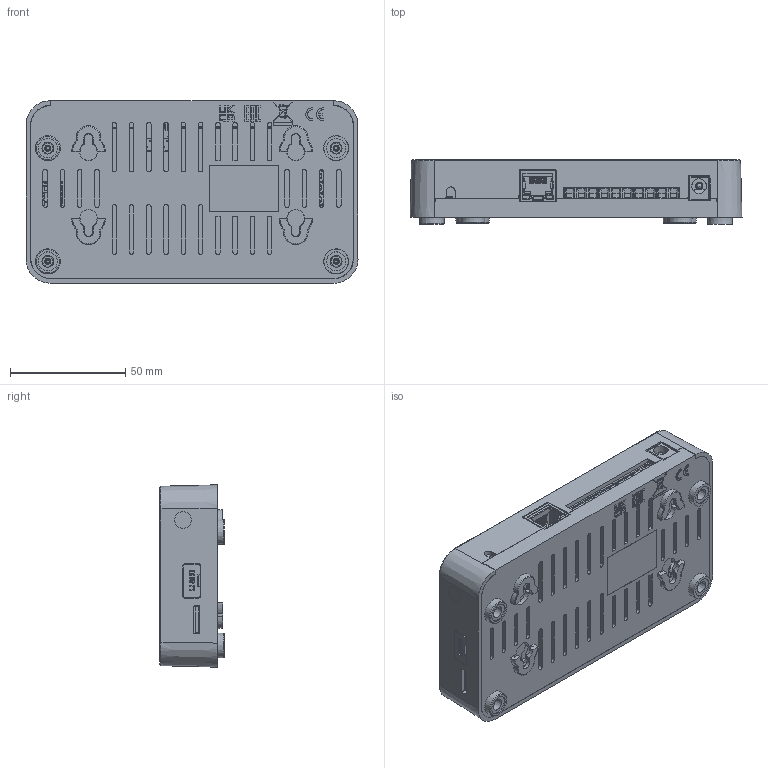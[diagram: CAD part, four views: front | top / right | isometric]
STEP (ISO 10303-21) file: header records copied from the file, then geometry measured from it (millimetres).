
FILE_DESCRIPTION(/* description */ (''),/* implementation_level */ '2;1');
FILE_NAME(/* name */ 'EH-01 Lite.step',/* time_stamp */ '2025-09-08T06:20:37+02:00',/* author */ (''),/* organization */ (''),/* preprocessor_version */ 'ST-DEVELOPER v20.1',/* originating_system */ 'Autodesk Translation Framework v14.10.0.0',/* authorisation */ '');
FILE_SCHEMA (('AUTOMOTIVE_DESIGN { 1 0 10303 214 3 1 1 }'));
Products named in the file (42): OP-1029_Centrala light_2024-02; OP-1029_A; OP-1029_B_poprawki_2024-04; Pleksa; USB_zatyczka od Gracka; OP-1029-B_Surma; ST-2658_2_3_A; Packages; 69410X301002; 6941xx301002; 694106301002_PinContact; 6941xx301002_Back; 6941xx301002_PinContact2; 6941xx301002_PinLame; 6941xx301002_PinBis; LPJ0012GDNL; 615008185221_Housing; 615008185221_Housing2; pin1; pin2; pin3; pin5; pin4; pin6; pin7; pin8; 615008185221_Shielding; pin_led; 615008185221_GreenLed; 615008185221_YellowLed; MEM2051-00-195-A_WITH_CARD; MEM2051-00-195-00-A_PART4; MEM2051-00-195-00-A_PART3; MEM2051-00-195-00-A_PART2; MEM2051-00-195-00-A_PART1; MicroSD v1; USB-A1D122F-0B4N; 61400416021_Insulator; 61400416021_Contact Plating; 61400416021_Shielding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
Assembly tree (49 placements, depth 5):
  OP-1029_Centrala light_2024-02
    OP-1029_A
    OP-1029_B_poprawki_2024-04
    Pleksa
    USB_zatyczka od Gracka
    OP-1029-B_Surma
    ST-2658_2_3_A
      Packages
        69410X301002
          6941xx301002
          694106301002_PinContact
          6941xx301002_Back
          6941xx301002_PinContact2
          6941xx301002_PinLame
          6941xx301002_PinBis
        LPJ0012GDNL
          615008185221_Housing
          615008185221_Housing2
          pin1
          pin2
          pin3
          pin5
          pin4
          pin6
          pin7
          pin8
          615008185221_Shielding
          pin_led  x4
          615008185221_GreenLed
          615008185221_YellowLed
        MEM2051-00-195-A_WITH_CARD
          MEM2051-00-195-00-A_PART4
          MEM2051-00-195-00-A_PART3
          MEM2051-00-195-00-A_PART2
          MEM2051-00-195-00-A_PART1
          MicroSD v1
        USB-A1D122F-0B4N
          61400416021_Insulator
          61400416021_Contact Plating  x4
          61400416021_Shielding
        ULO-TB51-127/5.0-02P-4100A_STANDARD  x2
        ULO-TB51-127/5.0-03P-4100A_STNADARD  x2
Bounding box: 144.16 x 27.9 x 79.2 mm (x, y, z)
Volume: 133663.4 mm3; surface area: 153376.6 mm2
Topology: 41 solids, 1650 shells, 7956 faces, 26554 edges, 20193 vertices
Faces by surface type: plane 4758, cylinder 1440, bspline 1172, cone 333, torus 227, sphere 26
Full cylindrical faces by diameter (mm): 0.35 x4, 0.38 x2, 0.66 x1, 1.2 x10, 1.5 x3, 1.8 x1, 2 x5, 3.2 x2, 3.5 x10, 3.7 x10, 6.4 x1, 7.2 x1
Entity records: 317120 total; most frequent: CARTESIAN_POINT 105714, DIRECTION 38939, ORIENTED_EDGE 38242, EDGE_CURVE 24100, VERTEX_POINT 18581, LINE 16753, VECTOR 16753, AXIS2_PLACEMENT_3D 11093
